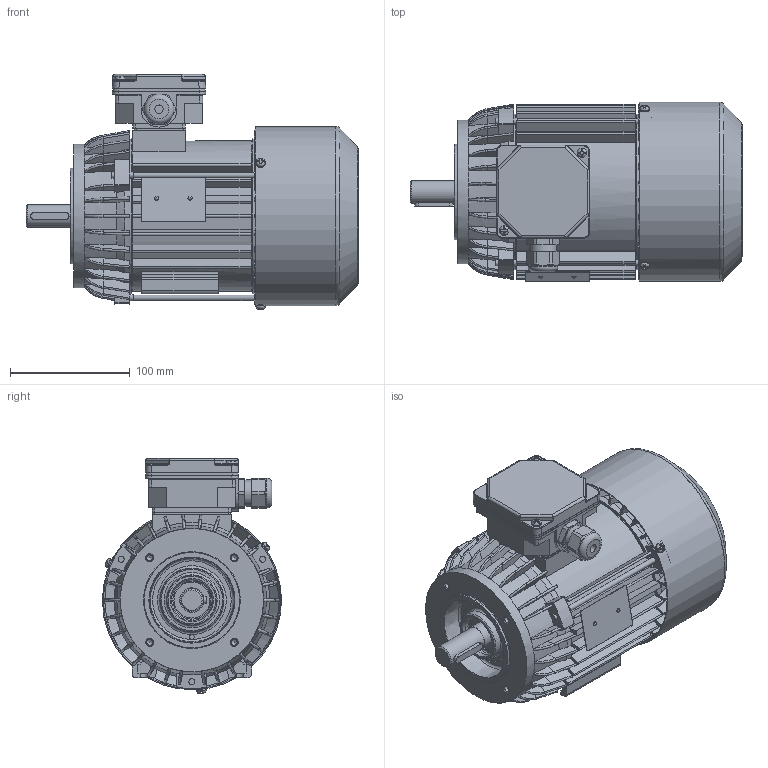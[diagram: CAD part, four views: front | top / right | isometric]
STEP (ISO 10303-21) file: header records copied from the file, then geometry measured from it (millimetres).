
FILE_DESCRIPTION(/* description */ ('Unknown'),/* implementation_level */ '2;1');
FILE_NAME(/* name */ '2SIEK80-6A2',/* time_stamp */ '2021-04-12T14:54:18+02:00',/* author */ ('Unknown'),/* organization */ ('Unknown'),/* preprocessor_version */ 'ST-DEVELOPER v16.7',/* originating_system */ 'Solid Edge',/* authorisation */ 'Unknown');
FILE_SCHEMA (('AUTOMOTIVE_DESIGN {1 0 10303 214 3 1 1}'));
Products named in the file (1): 2SIEK80-6A2
Bounding box: 277.78 x 150.01 x 196.68 mm (x, y, z)
Volume: 788666.3 mm3; surface area: 496539 mm2
Topology: 3 solids, 3 shells, 2580 faces, 7383 edges, 4806 vertices
Faces by surface type: plane 1227, cylinder 759, bspline 244, torus 189, cone 141, sphere 20
Full cylindrical faces by diameter (mm): 2 x2, 2.4 x2, 3.7 x8, 4 x5, 4.5 x1, 4.6 x3, 4.8 x2, 5 x12, 5.5 x3, 7 x1, 8 x9, 18.998 x1, 19.298 x1, 19.498 x1, 20.298 x2, 20.398 x2, 20.4 x2, 22.3 x1, 25 x1, 25.497 x1, 25.997 x2, 26.097 x1, 26.997 x1, 28.799 x4, 30 x1, 34 x1, 38.198 x4, 42 x2, 47 x3, 80 x1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
Entity records: 108349 total; most frequent: CARTESIAN_POINT 27260, ORIENTED_EDGE 14028, DIRECTION 12568, EDGE_CURVE 7014, VERTEX_POINT 4659, AXIS2_PLACEMENT_3D 4598, LINE 3372, VECTOR 3372
